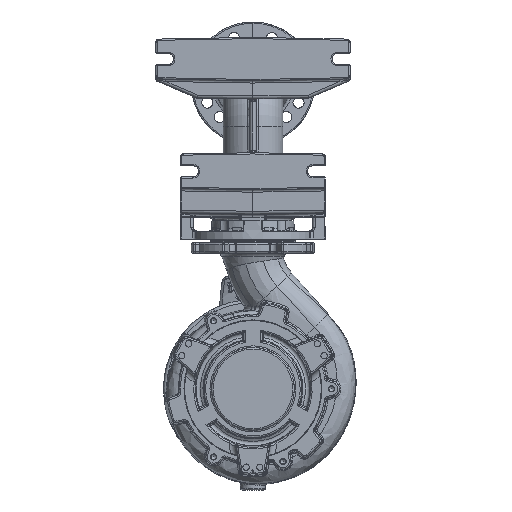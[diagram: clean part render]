
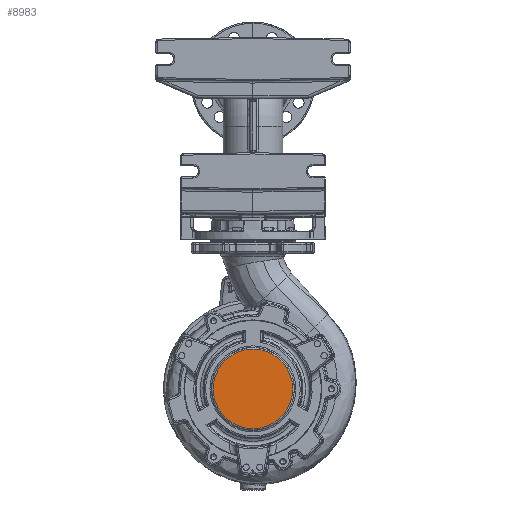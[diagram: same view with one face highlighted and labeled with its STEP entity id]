
A CAD part, front view. The second image highlights one B-rep face of the part: STEP entity #8983.
In plain terms, the highlighted planar face has unit normal (0, -1, 0).
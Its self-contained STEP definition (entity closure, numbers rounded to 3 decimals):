
#8983 = ADVANCED_FACE ( 'NONE', ( #20945 ), #80392, .T. ) ;
#9591 = ORIENTED_EDGE ( 'NONE', *, *, #114125, .T. ) ;
#16822 = DIRECTION ( 'NONE',  ( -1., 0., 0. ) ) ;
#18677 = AXIS2_PLACEMENT_3D ( 'NONE', #25333, #112145, #16822 ) ;
#20790 = AXIS2_PLACEMENT_3D ( 'NONE', #69295, #109251, #79973 ) ;
#20945 = FACE_OUTER_BOUND ( 'NONE', #43523, .T. ) ;
#25333 = CARTESIAN_POINT ( 'NONE',  ( 0., -88.5, -273. ) ) ;
#26410 = CIRCLE ( 'NONE', #18677, 64.543 ) ;
#30888 = CARTESIAN_POINT ( 'NONE',  ( -64.543, -88.5, -273. ) ) ;
#43523 = EDGE_LOOP ( 'NONE', ( #9591 ) ) ;
#69295 = CARTESIAN_POINT ( 'NONE',  ( 0., -88.5, -340. ) ) ;
#79973 = DIRECTION ( 'NONE',  ( -1., 0., 0. ) ) ;
#80392 = PLANE ( 'NONE',  #20790 ) ;
#109251 = DIRECTION ( 'NONE',  ( 0., -1., 0. ) ) ;
#112145 = DIRECTION ( 'NONE',  ( 0., -1., 0. ) ) ;
#113432 = VERTEX_POINT ( 'NONE', #30888 ) ;
#114125 = EDGE_CURVE ( 'NONE', #113432, #113432, #26410, .T. ) ;
